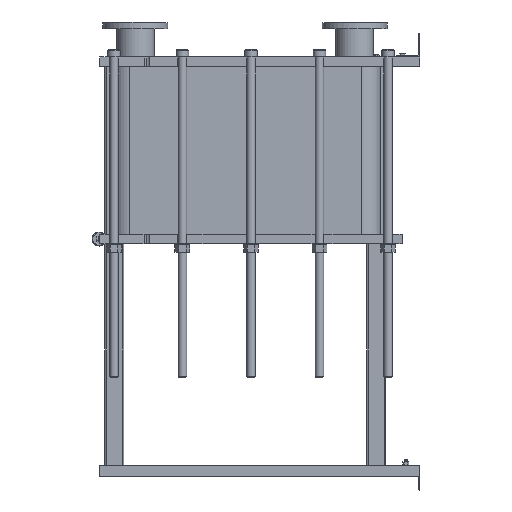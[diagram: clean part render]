
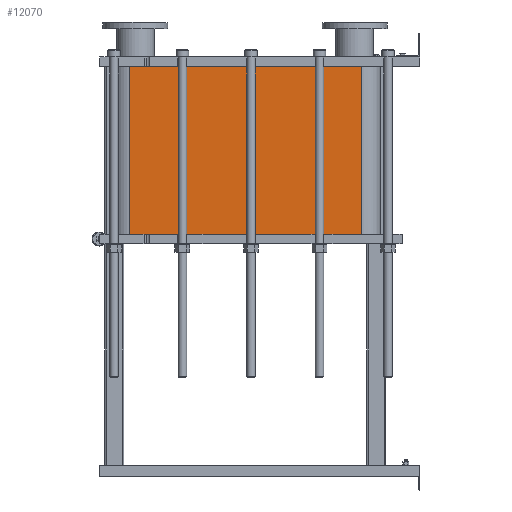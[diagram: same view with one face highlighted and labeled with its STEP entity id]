
A CAD part, left-side view. The second image highlights one B-rep face of the part: STEP entity #12070.
In plain terms, the highlighted planar face has unit normal (-1, 0, 0).
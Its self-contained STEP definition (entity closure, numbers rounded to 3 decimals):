
#1064=LINE('',#21140,#2164);
#1065=LINE('',#21144,#2165);
#1066=LINE('',#21146,#2166);
#1067=LINE('',#21147,#2167);
#2164=VECTOR('',#15790,10.);
#2165=VECTOR('',#15795,10.);
#2166=VECTOR('',#15796,10.);
#2167=VECTOR('',#15797,10.);
#3304=FACE_OUTER_BOUND('',#4091,.T.);
#4091=EDGE_LOOP('',(#9793,#9794,#9795,#9796));
#5677=VERTEX_POINT('',#21137);
#5678=VERTEX_POINT('',#21139);
#5679=VERTEX_POINT('',#21143);
#5680=VERTEX_POINT('',#21145);
#7118=EDGE_CURVE('',#5678,#5677,#1064,.T.);
#7120=EDGE_CURVE('',#5677,#5679,#1065,.T.);
#7121=EDGE_CURVE('',#5680,#5679,#1066,.T.);
#7122=EDGE_CURVE('',#5680,#5678,#1067,.T.);
#9793=ORIENTED_EDGE('',*,*,#7120,.T.);
#9794=ORIENTED_EDGE('',*,*,#7121,.F.);
#9795=ORIENTED_EDGE('',*,*,#7122,.T.);
#9796=ORIENTED_EDGE('',*,*,#7118,.T.);
#11441=PLANE('',#13191);
#12070=ADVANCED_FACE('',(#3304),#11441,.T.);
#13191=AXIS2_PLACEMENT_3D('',#21142,#15793,#15794);
#15790=DIRECTION('',(0.,0.,-1.));
#15793=DIRECTION('center_axis',(-1.,0.,0.));
#15794=DIRECTION('ref_axis',(0.,1.,0.));
#15795=DIRECTION('',(0.,-1.,0.));
#15796=DIRECTION('',(0.,0.,-1.));
#15797=DIRECTION('',(0.,1.,0.));
#21137=CARTESIAN_POINT('',(-248.152,1243.818,-721.05));
#21139=CARTESIAN_POINT('',(-248.152,1243.818,0.));
#21140=CARTESIAN_POINT('',(-248.152,1243.818,0.));
#21142=CARTESIAN_POINT('Origin',(-248.152,251.818,0.));
#21143=CARTESIAN_POINT('',(-248.152,251.818,-721.05));
#21144=CARTESIAN_POINT('',(-248.152,499.818,-721.05));
#21145=CARTESIAN_POINT('',(-248.152,251.818,0.));
#21146=CARTESIAN_POINT('',(-248.152,251.818,0.));
#21147=CARTESIAN_POINT('',(-248.152,251.818,0.));
